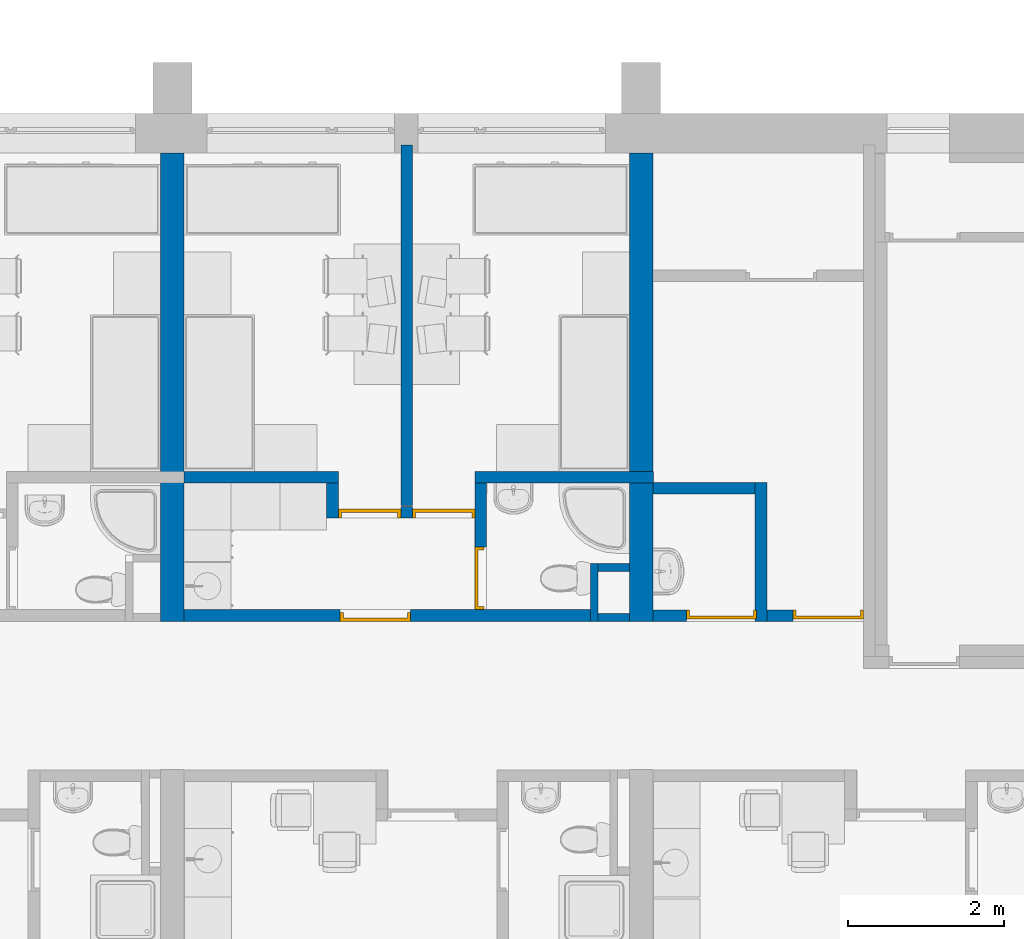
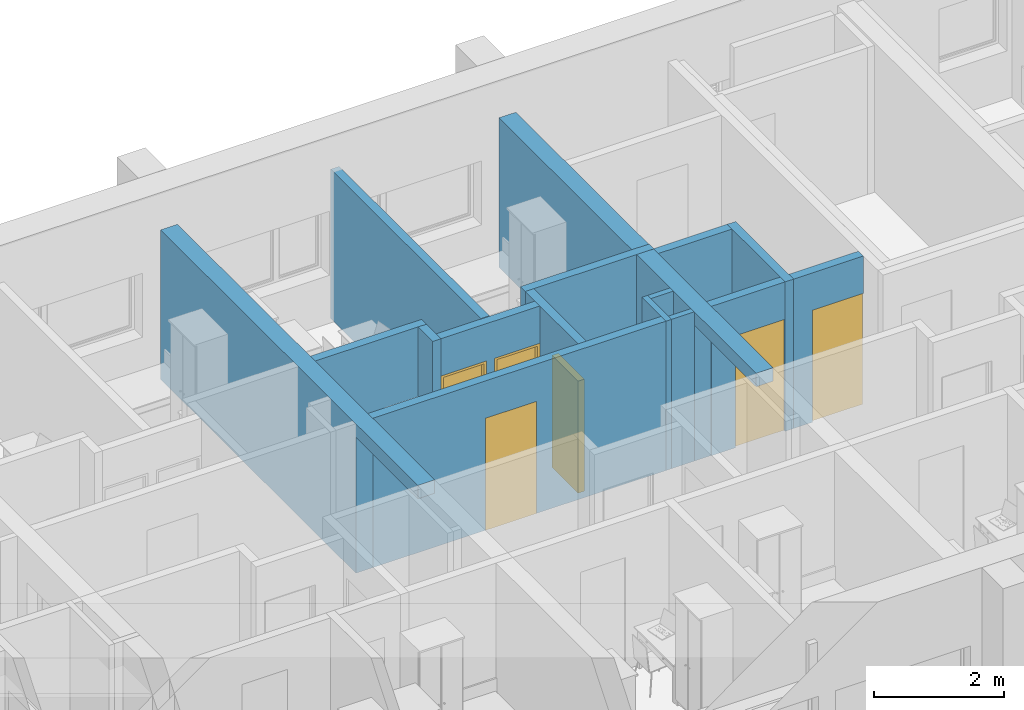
# One storey, part 9 of 152: 15 walls, 6 doors, 8 openings.
"""IFC2X3 building model written with IfcOpenShell, lengths in millimetres."""

from ifc_helpers import new_model, entity, si_unit, converted_unit, money_unit, direction, frame, origin_with_axes, place, context, subcontext, project, spatial, polyline, outline, extrude, faceted_brep, source, transform, mapped, material, material_list, layer, layer_set, layer_usage, type_object, element, fill, save


model = new_model("IFC2X3")

# Units and contexts
model_context = context("Model", 3, precision=1e-05, world=origin_with_axes(), true_north=direction((0.0, 1.0)))
body_context = subcontext(model_context, "Body", "Model", "MODEL_VIEW")
ifc_project = project(units=[si_unit("LENGTHUNIT", "METRE", prefix="MILLI"), si_unit("AREAUNIT", "SQUARE_METRE"), si_unit("VOLUMEUNIT", "CUBIC_METRE"), converted_unit("PLANEANGLEUNIT", "DEGREE", entity("IfcPlaneAngleMeasure", 0.0174532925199), si_unit("PLANEANGLEUNIT", "RADIAN"), dimensions=[0, 0, 0, 0, 0, 0, 0]), si_unit("SOLIDANGLEUNIT", "STERADIAN"), money_unit("USD"), converted_unit("TIMEUNIT", "Year", entity("IfcTimeMeasure", 31556926.0), si_unit("TIMEUNIT", "SECOND"), dimensions=[0, 0, 0, 0, 0, 0, 0]), si_unit("MASSUNIT", "GRAM"), si_unit("THERMODYNAMICTEMPERATUREUNIT", "DEGREE_CELSIUS"), si_unit("LUMINOUSINTENSITYUNIT", "LUMEN")], contexts=[model_context])

# Site, building, storey
site_placement = place(None, origin_with_axes())
site = spatial("IfcSite", under=ifc_project, at=site_placement, Name="Site", CompositionType="ELEMENT")
building_placement = place(site_placement, origin_with_axes())
building = spatial("IfcBuilding", under=site, at=building_placement, Name="Building", CompositionType="ELEMENT")
storey_placement = place(building_placement, frame((0.0, 0.0, 9500.0), z_axis=(0.0, 0.0, 1.0), x_axis=(1.0, 0.0, 0.0)))
storey = spatial("IfcBuildingStorey", under=building, at=storey_placement, Name="5KORRUS", CompositionType="ELEMENT", Elevation=9500.0)

# Walls
ifc_material_1 = material(Name="UmbKipsplaat")
ifc_layer_1 = layer(ifc_material_1, 13.0, ventilated="UNKNOWN")
ifc_layer_2 = layer(ifc_material_1, 13.0, ventilated="UNKNOWN")
ifc_material_2 = material(Name="SOOJUSTUS MINERAALVILL")
ifc_layer_3 = layer(ifc_material_2, 98.0, ventilated="UNKNOWN")
ifc_layer_4 = layer(ifc_material_1, 13.0, ventilated="UNKNOWN")
ifc_layer_5 = layer(ifc_material_1, 13.0, ventilated="UNKNOWN")
ifc_layer_set_1 = layer_set([ifc_layer_1, ifc_layer_2, ifc_layer_3, ifc_layer_4, ifc_layer_5], Name="kipssein150")
ifc_layer_usage_1 = layer_usage(ifc_layer_set_1, "AXIS2", "POSITIVE", -150.0)
wall_type_1 = type_object("IfcWallType", Name="kipssein150 150", PredefinedType="NOTDEFINED")
wall_1_placement = place(storey_placement, frame((-23990.2967033, -9359.6041088, 0.0), z_axis=(0.0, 0.0, 1.0), x_axis=(1.0, 0.0, 0.0)))
element("IfcWallStandardCase", 1, at=wall_1_placement, inside=storey, type_object=wall_type_1, material=ifc_layer_usage_1, Name="SS1", ObjectType="SS1", context=body_context, shape_type="SweptSolid", body=[
    extrude(outline(polyline([(0.0, -150.0), (1309.37146383, -150.0), (1309.37146383, 0.0), (0.0, 0.0), (0.0, -150.0)])), origin_with_axes(), (0.0, 0.0, 1.0), 2800.0),
])
ifc_layer_usage_2 = layer_usage(ifc_layer_set_1, "AXIS2", "POSITIVE", -150.0)
wall_2_placement = place(storey_placement, frame((-22680.9252395, -11141.652669, 0.0), z_axis=(0.0, 0.0, 1.0), x_axis=(0.0, 1.0, 0.0)))
element("IfcWallStandardCase", 2, at=wall_2_placement, inside=storey, type_object=wall_type_1, material=ifc_layer_usage_2, Name="SS1", ObjectType="SS1", context=body_context, shape_type="SweptSolid", body=[
    extrude(outline(polyline([(0.0, -150.0), (1782.04856022, -150.0), (1782.04856022, 0.0), (0.0, 0.0), (0.0, -150.0)])), origin_with_axes(), (0.0, 0.0, 1.0), 2800.0),
])
ifc_layer_usage_3 = layer_usage(ifc_layer_set_1, "AXIS2", "POSITIVE", -150.0)
wall_3_placement = place(storey_placement, frame((-28015.7435229, -9367.37850445, 0.0), z_axis=(0.0, 0.0, 1.0), x_axis=(0.0, -1.0, 0.0)))
element("IfcWallStandardCase", 3, at=wall_3_placement, inside=storey, type_object=wall_type_1, material=ifc_layer_usage_3, Name="SS1", ObjectType="SS1", context=body_context, shape_type="SweptSolid", body=[
    extrude(outline(polyline([(0.0, -150.0), (449.515634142, -150.0), (449.515634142, 0.0), (0.0, 0.0), (0.0, -150.0)])), origin_with_axes(), (0.0, 0.0, 1.0), 2800.0),
])
ifc_layer_usage_4 = layer_usage(ifc_layer_set_1, "AXIS2", "POSITIVE", -150.0)
wall_4_placement = place(storey_placement, frame((-28015.7435229, -9367.37850445, 0.0), z_axis=(0.0, 0.0, 1.0), x_axis=(-1.0, 0.0, 0.0)))
element("IfcWallStandardCase", 4, at=wall_4_placement, inside=storey, type_object=wall_type_1, material=ifc_layer_usage_4, Name="SS1", ObjectType="SS1", context=body_context, shape_type="SweptSolid", body=[
    extrude(outline(polyline([(0.0, -150.0), (1974.55318041, -150.0), (1974.55318041, 0.0), (0.0, 0.0), (0.0, -150.0)])), origin_with_axes(), (0.0, 0.0, 1.0), 2800.0),
])

# Wall, openings, doors
ifc_layer_usage_5 = layer_usage(ifc_layer_set_1, "AXIS2", "POSITIVE", 0.0)
wall_5_placement = place(storey_placement, frame((-23990.2967033, -11141.652669, 0.0), z_axis=(0.0, 0.0, 1.0), x_axis=(1.0, 0.0, 0.0)))
wall_5 = element("IfcWallStandardCase", 5, at=wall_5_placement, inside=storey, type_object=wall_type_1, material=ifc_layer_usage_5, Name="SS1", ObjectType="SS1", context=body_context, shape_type="SweptSolid", body=[
    extrude(outline(polyline([(0.0, 0.0), (2696.4969239, 0.0), (2696.4969239, 150.0), (0.0, 150.0), (0.0, 0.0)])), origin_with_axes(), (0.0, 0.0, 1.0), 2800.0),
])
opening_1_placement = place(wall_5_placement, frame((2246.4969239, 0.0, 0.0), z_axis=(0.0, 0.0, 1.0), x_axis=(1.0, 0.0, 0.0)))
opening_1 = element("IfcOpeningElement", 6, at=opening_1_placement, cuts=wall_5, Name="SU2-3", context=body_context, shape_type="SweptSolid", body=[
    extrude(outline(polyline([(-450.0, 0.0), (450.0, 0.0), (450.0, 2100.0), (-450.0, 2100.0), (-450.0, 0.0)])), frame((0.0, -150.0, 0.0), z_axis=(0.0, -1.0, 0.0), x_axis=(1.0, 0.0, 0.0)), (0.0, 0.0, -1.0), 450.0),
])
opening_2_placement = place(wall_5_placement, frame((880.104507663, 0.0, 0.0), z_axis=(0.0, 0.0, 1.0), x_axis=(1.0, 0.0, 0.0)))
opening_2 = element("IfcOpeningElement", 7, at=opening_2_placement, cuts=wall_5, Name="SU2-4", context=body_context, shape_type="SweptSolid", body=[
    extrude(outline(polyline([(-450.0, 0.0), (450.0, 0.0), (450.0, 2100.0), (-450.0, 2100.0), (-450.0, 0.0)])), frame((0.0, -150.0, 0.0), z_axis=(0.0, -1.0, 0.0), x_axis=(1.0, 0.0, 0.0)), (0.0, 0.0, -1.0), 450.0),
])
ifc_material_3 = material(Name="Background")
ifc_material_list = material_list([ifc_material_3])
door_style_1 = type_object("IfcDoorStyle", Name="Door 19", ConstructionType="NOTDEFINED", OperationType="SINGLE_SWING_LEFT", ParameterTakesPrecedence=False, Sizeable=False)
shared_shape_1 = source(origin_with_axes(), body_context, "Body", "Brep", [
    faceted_brep([(410.0, -75.0, 0.0), (410.0, -150.0, 0.0), (410.0, -150.0, 2060.0), (410.0, -75.0, 2060.0), (422.0, -75.0, 0.0), (422.0, -35.0, 0.0), (450.0, -35.0, 0.0), (450.0, -150.0, 0.0), (450.0, -150.0, 2060.0), (422.0, -75.0, 2060.0), (450.0, -35.0, 2060.0), (422.0, -35.0, 2060.0)], [[[0, 1, 2, 3]], [[4, 5, 6, 7, 1, 0]], [[2, 1, 7, 8]], [[9, 3, 2, 8, 10, 11]], [[9, 4, 0, 3]], [[11, 5, 4, 9]], [[11, 10, 6, 5]], [[7, 6, 10, 8]]]),
    faceted_brep([(-422.0, -75.0, 2060.0), (-422.0, -35.0, 2060.0), (-450.0, -35.0, 2060.0), (-450.0, -150.0, 2060.0), (-410.0, -150.0, 2060.0), (-410.0, -75.0, 2060.0), (-422.0, -75.0, 0.0), (-422.0, -35.0, 0.0), (-450.0, -35.0, 0.0), (-450.0, -150.0, 0.0), (-410.0, -150.0, 0.0), (-410.0, -75.0, 0.0)], [[[0, 1, 2, 3, 4, 5]], [[0, 6, 7, 1]], [[7, 8, 2, 1]], [[3, 2, 8, 9]], [[4, 3, 9, 10]], [[5, 4, 10, 11]], [[5, 11, 6, 0]], [[6, 11, 10, 9, 8, 7]]]),
    faceted_brep([(422.0, -35.0, 2072.0), (-422.0, -35.0, 2072.0), (-422.0, -35.0, 2060.0), (-450.0, -35.0, 2060.0), (-450.0, -35.0, 2100.0), (450.0, -35.0, 2100.0), (450.0, -35.0, 2060.0), (422.0, -35.0, 2060.0), (422.0, -75.0, 2072.0), (-422.0, -75.0, 2072.0), (-422.0, -75.0, 2060.0), (-410.0, -75.0, 2060.0), (-410.0, -150.0, 2060.0), (-450.0, -150.0, 2060.0), (-450.0, -150.0, 2100.0), (450.0, -150.0, 2100.0), (450.0, -150.0, 2060.0), (422.0, -75.0, 2060.0), (410.0, -150.0, 2060.0), (410.0, -75.0, 2060.0)], [[[0, 1, 2, 3, 4, 5, 6, 7]], [[0, 8, 9, 1]], [[1, 9, 10, 2]], [[10, 11, 12, 13, 3, 2]], [[14, 4, 3, 13]], [[15, 5, 4, 14]], [[16, 6, 5, 15]], [[17, 7, 6, 16, 18, 19]], [[7, 17, 8, 0]], [[10, 9, 8, 17, 19, 11]], [[19, 18, 12, 11]], [[13, 12, 18, 16, 15, 14]]]),
    faceted_brep([(-422.0, -35.0, 0.0), (422.0, -35.0, 0.0), (422.0, -75.0, 0.0), (-422.0, -75.0, 0.0), (-422.0, -35.0, 2072.0), (422.0, -35.0, 2072.0), (422.0, -75.0, 2072.0), (-422.0, -75.0, 2072.0)], [[[0, 1, 2, 3]], [[0, 4, 5, 1]], [[1, 5, 6, 2]], [[3, 2, 6, 7]], [[4, 0, 3, 7]], [[5, 4, 7, 6]]]),
])
door_1_placement = place(opening_1_placement, frame((450.0, 0.0, 0.0), z_axis=(0.0, 0.0, 1.0), x_axis=(-1.0, 0.0, 0.0)))
door_1 = element("IfcDoor", 8, at=door_1_placement, inside=storey, type_object=door_style_1, material=ifc_material_list, Name="SU2-3", ObjectType="Abiruumi uks", OverallHeight=2100.0, OverallWidth=900.0, context=body_context, shape_type="MappedRepresentation", body=[
    mapped(shared_shape_1, transform((450.0, 0.0, 0.0))),
])
fill(opening_1, door_1)
door_2_placement = place(opening_2_placement, frame((450.0, 0.0, 0.0), z_axis=(0.0, 0.0, 1.0), x_axis=(-1.0, 0.0, 0.0)))
door_2 = element("IfcDoor", 9, at=door_2_placement, inside=storey, type_object=door_style_1, material=ifc_material_list, Name="SU2-4", ObjectType="Abiruumi uks", OverallHeight=2100.0, OverallWidth=900.0, context=body_context, shape_type="MappedRepresentation", body=[
    mapped(shared_shape_1, transform((450.0, 0.0, 0.0))),
])
fill(opening_2, door_2)

# Wall, opening, door
ifc_layer_usage_6 = layer_usage(ifc_layer_set_1, "AXIS2", "POSITIVE", 0.0)
wall_6_placement = place(storey_placement, frame((-29990.2967033, -11136.6041088, 0.0), z_axis=(0.0, 0.0, 1.0), x_axis=(1.0, 0.0, 0.0)))
wall_6 = element("IfcWallStandardCase", 10, at=wall_6_placement, inside=storey, type_object=wall_type_1, material=ifc_layer_usage_6, Name="SS1", ObjectType="SS1", context=body_context, shape_type="SweptSolid", body=[
    extrude(outline(polyline([(0.0, 0.0), (5200.0, 0.0), (5200.0, 150.0), (0.0, 150.0), (0.0, 0.0)])), origin_with_axes(), (0.0, 0.0, 1.0), 2800.0),
])
opening_3_placement = place(wall_6_placement, frame((2449.55318041, 0.0, 0.0), z_axis=(0.0, 0.0, 1.0), x_axis=(1.0, 0.0, 0.0)))
opening_3 = element("IfcOpeningElement", 11, at=opening_3_placement, cuts=wall_6, Name="SU2-6", context=body_context, shape_type="SweptSolid", body=[
    extrude(outline(polyline([(-450.0, -2100.0), (450.0, -2100.0), (450.0, 0.0), (-450.0, 0.0), (-450.0, -2100.0)])), frame((0.0, 150.0, 0.0), z_axis=(0.0, 1.0, 0.0), x_axis=(1.0, 0.0, 0.0)), (0.0, 0.0, -1.0), 450.0),
])
door_style_2 = type_object("IfcDoorStyle", Name="Door 19", ConstructionType="NOTDEFINED", OperationType="SINGLE_SWING_LEFT", ParameterTakesPrecedence=False, Sizeable=False)
shared_shape_2 = source(origin_with_axes(), body_context, "Body", "Brep", [
    faceted_brep([(410.0, -40.0, 0.0), (410.0, -115.0, 0.0), (410.0, -115.0, 2060.0), (410.0, -40.0, 2060.0), (422.0, -40.0, 0.0), (422.0, 0.0, 0.0), (450.0, 0.0, 0.0), (450.0, -115.0, 0.0), (450.0, -115.0, 2060.0), (422.0, -40.0, 2060.0), (450.0, 0.0, 2060.0), (422.0, 0.0, 2060.0)], [[[0, 1, 2, 3]], [[4, 5, 6, 7, 1, 0]], [[2, 1, 7, 8]], [[9, 3, 2, 8, 10, 11]], [[9, 4, 0, 3]], [[11, 5, 4, 9]], [[11, 10, 6, 5]], [[7, 6, 10, 8]]]),
    faceted_brep([(-422.0, -40.0, 2060.0), (-422.0, 0.0, 2060.0), (-450.0, 0.0, 2060.0), (-450.0, -115.0, 2060.0), (-410.0, -115.0, 2060.0), (-410.0, -40.0, 2060.0), (-422.0, -40.0, 0.0), (-422.0, 0.0, 0.0), (-450.0, 0.0, 0.0), (-450.0, -115.0, 0.0), (-410.0, -115.0, 0.0), (-410.0, -40.0, 0.0)], [[[0, 1, 2, 3, 4, 5]], [[0, 6, 7, 1]], [[7, 8, 2, 1]], [[3, 2, 8, 9]], [[4, 3, 9, 10]], [[5, 4, 10, 11]], [[5, 11, 6, 0]], [[6, 11, 10, 9, 8, 7]]]),
    faceted_brep([(422.0, 0.0, 2072.0), (-422.0, 0.0, 2072.0), (-422.0, 0.0, 2060.0), (-450.0, 0.0, 2060.0), (-450.0, 0.0, 2100.0), (450.0, 0.0, 2100.0), (450.0, 0.0, 2060.0), (422.0, 0.0, 2060.0), (422.0, -40.0, 2072.0), (-422.0, -40.0, 2072.0), (-422.0, -40.0, 2060.0), (-410.0, -40.0, 2060.0), (-410.0, -115.0, 2060.0), (-450.0, -115.0, 2060.0), (-450.0, -115.0, 2100.0), (450.0, -115.0, 2100.0), (450.0, -115.0, 2060.0), (422.0, -40.0, 2060.0), (410.0, -115.0, 2060.0), (410.0, -40.0, 2060.0)], [[[0, 1, 2, 3, 4, 5, 6, 7]], [[0, 8, 9, 1]], [[1, 9, 10, 2]], [[10, 11, 12, 13, 3, 2]], [[14, 4, 3, 13]], [[15, 5, 4, 14]], [[16, 6, 5, 15]], [[17, 7, 6, 16, 18, 19]], [[7, 17, 8, 0]], [[10, 9, 8, 17, 19, 11]], [[19, 18, 12, 11]], [[13, 12, 18, 16, 15, 14]]]),
    faceted_brep([(-422.0, 0.0, 0.0), (422.0, 0.0, 0.0), (422.0, -40.0, 0.0), (-422.0, -40.0, 0.0), (-422.0, 0.0, 2072.0), (422.0, 0.0, 2072.0), (422.0, -40.0, 2072.0), (-422.0, -40.0, 2072.0)], [[[0, 1, 2, 3]], [[0, 4, 5, 1]], [[1, 5, 6, 2]], [[3, 2, 6, 7]], [[4, 0, 3, 7]], [[5, 4, 7, 6]]]),
])
door_3_placement = place(opening_3_placement, frame((450.0, 0.0, 0.0), z_axis=(0.0, 0.0, 1.0), x_axis=(-1.0, 0.0, 0.0)))
door_3 = element("IfcDoor", 12, at=door_3_placement, inside=storey, type_object=door_style_2, material=ifc_material_list, Name="SU2-6", ObjectType="Korteri välisuks", OverallHeight=2100.0, OverallWidth=900.0, context=body_context, shape_type="MappedRepresentation", body=[
    mapped(shared_shape_2, transform((450.0, 0.0, 0.0))),
])
fill(opening_3, door_3)

ifc_layer_usage_7 = layer_usage(ifc_layer_set_1, "AXIS2", "POSITIVE", 0.0)
wall_7_placement = place(storey_placement, frame((-26265.2967033, -9367.37850445, 0.0), z_axis=(0.0, 0.0, 1.0), x_axis=(0.0, -1.0, 0.0)))
wall_7 = element("IfcWallStandardCase", 13, at=wall_7_placement, inside=storey, type_object=wall_type_1, material=ifc_layer_usage_7, Name="SS1", ObjectType="SS1", context=body_context, shape_type="SweptSolid", body=[
    extrude(outline(polyline([(0.0, 0.0), (1619.22560435, 0.0), (1619.22560435, 150.0), (0.0, 150.0), (0.0, 0.0)])), origin_with_axes(), (0.0, 0.0, 1.0), 2800.0),
])
opening_4_placement = place(wall_7_placement, frame((1219.22560435, 0.0, 0.0), z_axis=(0.0, 0.0, 1.0), x_axis=(1.0, 0.0, 0.0)))
opening_4 = element("IfcOpeningElement", 14, at=opening_4_placement, cuts=wall_7, Name="SU3-3", context=body_context, shape_type="SweptSolid", body=[
    extrude(outline(polyline([(-400.0, -2100.0), (400.0, -2100.0), (400.0, 0.0), (-400.0, 0.0), (-400.0, -2100.0)])), frame((0.0, 150.0, 0.0), z_axis=(0.0, 1.0, 0.0), x_axis=(1.0, 0.0, 0.0)), (0.0, 0.0, -1.0), 450.0),
])
shared_shape_3 = source(origin_with_axes(), body_context, "Body", "Brep", [
    faceted_brep([(360.0, -40.0, 0.0), (360.0, -115.0, 0.0), (360.0, -115.0, 2060.0), (360.0, -40.0, 2060.0), (372.0, -40.0, 0.0), (372.0, 0.0, 0.0), (400.0, 0.0, 0.0), (400.0, -115.0, 0.0), (400.0, -115.0, 2060.0), (372.0, -40.0, 2060.0), (400.0, 0.0, 2060.0), (372.0, 0.0, 2060.0)], [[[0, 1, 2, 3]], [[4, 5, 6, 7, 1, 0]], [[2, 1, 7, 8]], [[9, 3, 2, 8, 10, 11]], [[9, 4, 0, 3]], [[11, 5, 4, 9]], [[11, 10, 6, 5]], [[7, 6, 10, 8]]]),
    faceted_brep([(-372.0, -40.0, 2060.0), (-372.0, 0.0, 2060.0), (-400.0, 0.0, 2060.0), (-400.0, -115.0, 2060.0), (-360.0, -115.0, 2060.0), (-360.0, -40.0, 2060.0), (-372.0, -40.0, 0.0), (-372.0, 0.0, 0.0), (-400.0, 0.0, 0.0), (-400.0, -115.0, 0.0), (-360.0, -115.0, 0.0), (-360.0, -40.0, 0.0)], [[[0, 1, 2, 3, 4, 5]], [[0, 6, 7, 1]], [[7, 8, 2, 1]], [[3, 2, 8, 9]], [[4, 3, 9, 10]], [[5, 4, 10, 11]], [[5, 11, 6, 0]], [[6, 11, 10, 9, 8, 7]]]),
    faceted_brep([(372.0, 0.0, 2072.0), (-372.0, 0.0, 2072.0), (-372.0, 0.0, 2060.0), (-400.0, 0.0, 2060.0), (-400.0, 0.0, 2100.0), (400.0, 0.0, 2100.0), (400.0, 0.0, 2060.0), (372.0, 0.0, 2060.0), (372.0, -40.0, 2072.0), (-372.0, -40.0, 2072.0), (-372.0, -40.0, 2060.0), (-360.0, -40.0, 2060.0), (-360.0, -115.0, 2060.0), (-400.0, -115.0, 2060.0), (-400.0, -115.0, 2100.0), (400.0, -115.0, 2100.0), (400.0, -115.0, 2060.0), (372.0, -40.0, 2060.0), (360.0, -115.0, 2060.0), (360.0, -40.0, 2060.0)], [[[0, 1, 2, 3, 4, 5, 6, 7]], [[0, 8, 9, 1]], [[1, 9, 10, 2]], [[10, 11, 12, 13, 3, 2]], [[14, 4, 3, 13]], [[15, 5, 4, 14]], [[16, 6, 5, 15]], [[17, 7, 6, 16, 18, 19]], [[7, 17, 8, 0]], [[10, 9, 8, 17, 19, 11]], [[19, 18, 12, 11]], [[13, 12, 18, 16, 15, 14]]]),
    faceted_brep([(-372.0, 0.0, 0.0), (372.0, 0.0, 0.0), (372.0, -40.0, 0.0), (-372.0, -40.0, 0.0), (-372.0, 0.0, 2072.0), (372.0, 0.0, 2072.0), (372.0, -40.0, 2072.0), (-372.0, -40.0, 2072.0)], [[[0, 1, 2, 3]], [[0, 4, 5, 1]], [[1, 5, 6, 2]], [[3, 2, 6, 7]], [[4, 0, 3, 7]], [[5, 4, 7, 6]]]),
])
door_4_placement = place(opening_4_placement, frame((400.0, 0.0, 0.0), z_axis=(0.0, 0.0, 1.0), x_axis=(-1.0, 0.0, 0.0)))
door_4 = element("IfcDoor", 15, at=door_4_placement, inside=storey, type_object=door_style_2, material=ifc_material_list, Name="SU3-3", ObjectType="WC-uks", OverallHeight=2100.0, OverallWidth=800.0, context=body_context, shape_type="MappedRepresentation", body=[
    mapped(shared_shape_3, transform((400.0, 0.0, 0.0))),
])
fill(opening_4, door_4)

# Wall, openings, doors
ifc_layer_usage_8 = layer_usage(ifc_layer_set_1, "AXIS2", "POSITIVE", 0.0)
wall_8_placement = place(storey_placement, frame((-28015.7435229, -9815.89413859, 0.0), z_axis=(0.0, 0.0, 1.0), x_axis=(1.0, 0.0, 0.0)))
wall_8 = element("IfcWallStandardCase", 16, at=wall_8_placement, inside=storey, type_object=wall_type_1, material=ifc_layer_usage_8, Name="SS1", ObjectType="SS1", context=body_context, shape_type="SweptSolid", body=[
    extrude(outline(polyline([(0.0, 0.0), (1750.44681959, 0.0), (1750.44681959, 150.0), (0.0, 150.0), (0.0, 0.0)])), origin_with_axes(), (0.0, 0.0, 1.0), 2800.0),
])
opening_5_placement = place(wall_8_placement, frame((1350.45577623, 0.0, 0.0), z_axis=(0.0, 0.0, 1.0), x_axis=(1.0, 0.0, 0.0)))
opening_5 = element("IfcOpeningElement", 17, at=opening_5_placement, cuts=wall_8, Name="SU3-5", context=body_context, shape_type="SweptSolid", body=[
    extrude(outline(polyline([(-400.0, 0.0), (400.0, 0.0), (400.0, 2100.0), (-400.0, 2100.0), (-400.0, 0.0)])), frame((0.0, 150.0, 0.0), z_axis=(0.0, 1.0, 0.0), x_axis=(-1.0, 0.0, 0.0)), (0.0, 0.0, -1.0), 450.0),
])
opening_6_placement = place(wall_8_placement, frame((400.0, 0.0, 0.0), z_axis=(0.0, 0.0, 1.0), x_axis=(1.0, 0.0, 0.0)))
opening_6 = element("IfcOpeningElement", 18, at=opening_6_placement, cuts=wall_8, Name="SU3-4", context=body_context, shape_type="SweptSolid", body=[
    extrude(outline(polyline([(-400.0, 0.0), (400.0, 0.0), (400.0, 2100.0), (-400.0, 2100.0), (-400.0, 0.0)])), frame((0.0, 150.0, 0.0), z_axis=(0.0, -1.0, 0.0), x_axis=(1.0, 0.0, 0.0)), (0.0, 0.0, 1.0), 450.0),
])
door_style_3 = type_object("IfcDoorStyle", Name="Door 19", ConstructionType="NOTDEFINED", OperationType="SINGLE_SWING_LEFT", ParameterTakesPrecedence=False, Sizeable=False)
shared_shape_4 = source(origin_with_axes(), body_context, "Body", "Brep", [
    faceted_brep([(360.0, -75.0, 0.0), (360.0, -150.0, 0.0), (360.0, -150.0, 2060.0), (360.0, -75.0, 2060.0), (372.0, -75.0, 0.0), (372.0, -35.0, 0.0), (400.0, -35.0, 0.0), (400.0, -150.0, 0.0), (400.0, -150.0, 2060.0), (372.0, -75.0, 2060.0), (400.0, -35.0, 2060.0), (372.0, -35.0, 2060.0)], [[[0, 1, 2, 3]], [[4, 5, 6, 7, 1, 0]], [[2, 1, 7, 8]], [[9, 3, 2, 8, 10, 11]], [[9, 4, 0, 3]], [[11, 5, 4, 9]], [[11, 10, 6, 5]], [[7, 6, 10, 8]]]),
    faceted_brep([(-372.0, -75.0, 2060.0), (-372.0, -35.0, 2060.0), (-400.0, -35.0, 2060.0), (-400.0, -150.0, 2060.0), (-360.0, -150.0, 2060.0), (-360.0, -75.0, 2060.0), (-372.0, -75.0, 0.0), (-372.0, -35.0, 0.0), (-400.0, -35.0, 0.0), (-400.0, -150.0, 0.0), (-360.0, -150.0, 0.0), (-360.0, -75.0, 0.0)], [[[0, 1, 2, 3, 4, 5]], [[0, 6, 7, 1]], [[7, 8, 2, 1]], [[3, 2, 8, 9]], [[4, 3, 9, 10]], [[5, 4, 10, 11]], [[5, 11, 6, 0]], [[6, 11, 10, 9, 8, 7]]]),
    faceted_brep([(372.0, -35.0, 2072.0), (-372.0, -35.0, 2072.0), (-372.0, -35.0, 2060.0), (-400.0, -35.0, 2060.0), (-400.0, -35.0, 2100.0), (400.0, -35.0, 2100.0), (400.0, -35.0, 2060.0), (372.0, -35.0, 2060.0), (372.0, -75.0, 2072.0), (-372.0, -75.0, 2072.0), (-372.0, -75.0, 2060.0), (-360.0, -75.0, 2060.0), (-360.0, -150.0, 2060.0), (-400.0, -150.0, 2060.0), (-400.0, -150.0, 2100.0), (400.0, -150.0, 2100.0), (400.0, -150.0, 2060.0), (372.0, -75.0, 2060.0), (360.0, -150.0, 2060.0), (360.0, -75.0, 2060.0)], [[[0, 1, 2, 3, 4, 5, 6, 7]], [[0, 8, 9, 1]], [[1, 9, 10, 2]], [[10, 11, 12, 13, 3, 2]], [[14, 4, 3, 13]], [[15, 5, 4, 14]], [[16, 6, 5, 15]], [[17, 7, 6, 16, 18, 19]], [[7, 17, 8, 0]], [[10, 9, 8, 17, 19, 11]], [[19, 18, 12, 11]], [[13, 12, 18, 16, 15, 14]]]),
    faceted_brep([(-372.0, -35.0, 0.0), (372.0, -35.0, 0.0), (372.0, -75.0, 0.0), (-372.0, -75.0, 0.0), (-372.0, -35.0, 2072.0), (372.0, -35.0, 2072.0), (372.0, -75.0, 2072.0), (-372.0, -75.0, 2072.0)], [[[0, 1, 2, 3]], [[0, 4, 5, 1]], [[1, 5, 6, 2]], [[3, 2, 6, 7]], [[4, 0, 3, 7]], [[5, 4, 7, 6]]]),
])
door_5_placement = place(opening_5_placement, frame((-400.0, 0.0, 0.0), z_axis=(0.0, 0.0, 1.0), x_axis=(1.0, 0.0, 0.0)))
door_5 = element("IfcDoor", 19, at=door_5_placement, inside=storey, type_object=door_style_3, material=ifc_material_list, Name="SU3-5", ObjectType="Toa uks", OverallHeight=2100.0, OverallWidth=800.0, context=body_context, shape_type="MappedRepresentation", body=[
    mapped(shared_shape_4, transform((400.0, 150.0, 0.0))),
])
fill(opening_5, door_5)
door_style_4 = type_object("IfcDoorStyle", Name="Door 19", ConstructionType="NOTDEFINED", OperationType="SINGLE_SWING_RIGHT", ParameterTakesPrecedence=False, Sizeable=False)
shared_shape_5 = source(origin_with_axes(), body_context, "Body", "Brep", [
    faceted_brep([(-360.0, -75.0, 0.0), (-360.0, -75.0, 2060.0), (-360.0, -150.0, 2060.0), (-360.0, -150.0, 0.0), (-372.0, -75.0, 2060.0), (-372.0, -75.0, 0.0), (-372.0, -35.0, 2060.0), (-400.0, -35.0, 2060.0), (-400.0, -150.0, 2060.0), (-400.0, -150.0, 0.0), (-400.0, -35.0, 0.0), (-372.0, -35.0, 0.0)], [[[0, 1, 2, 3]], [[4, 1, 0, 5]], [[4, 6, 7, 8, 2, 1]], [[2, 8, 9, 3]], [[5, 0, 3, 9, 10, 11]], [[6, 4, 5, 11]], [[6, 11, 10, 7]], [[9, 8, 7, 10]]]),
    faceted_brep([(372.0, -75.0, 2060.0), (360.0, -75.0, 2060.0), (360.0, -150.0, 2060.0), (400.0, -150.0, 2060.0), (400.0, -35.0, 2060.0), (372.0, -35.0, 2060.0), (372.0, -75.0, 0.0), (360.0, -75.0, 0.0), (360.0, -150.0, 0.0), (400.0, -150.0, 0.0), (400.0, -35.0, 0.0), (372.0, -35.0, 0.0)], [[[0, 1, 2, 3, 4, 5]], [[1, 0, 6, 7]], [[1, 7, 8, 2]], [[2, 8, 9, 3]], [[3, 9, 10, 4]], [[11, 5, 4, 10]], [[0, 5, 11, 6]], [[6, 11, 10, 9, 8, 7]]]),
    faceted_brep([(-372.0, -35.0, 2072.0), (-372.0, -35.0, 2060.0), (-400.0, -35.0, 2060.0), (-400.0, -35.0, 2100.0), (400.0, -35.0, 2100.0), (400.0, -35.0, 2060.0), (372.0, -35.0, 2060.0), (372.0, -35.0, 2072.0), (-372.0, -75.0, 2072.0), (-372.0, -75.0, 2060.0), (-360.0, -75.0, 2060.0), (-360.0, -150.0, 2060.0), (-400.0, -150.0, 2060.0), (-400.0, -150.0, 2100.0), (400.0, -150.0, 2100.0), (400.0, -150.0, 2060.0), (372.0, -75.0, 2060.0), (360.0, -150.0, 2060.0), (360.0, -75.0, 2060.0), (372.0, -75.0, 2072.0)], [[[0, 1, 2, 3, 4, 5, 6, 7]], [[1, 0, 8, 9]], [[9, 10, 11, 12, 2, 1]], [[12, 13, 3, 2]], [[13, 14, 4, 3]], [[14, 15, 5, 4]], [[16, 6, 5, 15, 17, 18]], [[7, 6, 16, 19]], [[0, 7, 19, 8]], [[16, 18, 10, 9, 8, 19]], [[10, 18, 17, 11]], [[15, 14, 13, 12, 11, 17]]]),
    faceted_brep([(372.0, -35.0, 0.0), (372.0, -75.0, 0.0), (-372.0, -75.0, 0.0), (-372.0, -35.0, 0.0), (372.0, -35.0, 2072.0), (372.0, -75.0, 2072.0), (-372.0, -75.0, 2072.0), (-372.0, -35.0, 2072.0)], [[[0, 1, 2, 3]], [[4, 5, 1, 0]], [[1, 5, 6, 2]], [[3, 2, 6, 7]], [[0, 3, 7, 4]], [[7, 6, 5, 4]]]),
])
door_6_placement = place(opening_6_placement, frame((-400.0, 0.0, 0.0), z_axis=(0.0, 0.0, 1.0), x_axis=(1.0, 0.0, 0.0)))
door_6 = element("IfcDoor", 20, at=door_6_placement, inside=storey, type_object=door_style_4, material=ifc_material_list, Name="SU3-4", ObjectType="Toa uks", OverallHeight=2100.0, OverallWidth=800.0, context=body_context, shape_type="MappedRepresentation", body=[
    mapped(shared_shape_5, transform((400.0, 150.0, 0.0))),
])
fill(opening_6, door_6)

# Walls
ifc_layer_usage_9 = layer_usage(ifc_layer_set_1, "AXIS2", "POSITIVE", 0.0)
wall_9_placement = place(storey_placement, frame((-26265.2967033, -9367.37850445, 0.0), z_axis=(0.0, 0.0, 1.0), x_axis=(1.0, 0.0, 0.0)))
element("IfcWallStandardCase", 21, at=wall_9_placement, inside=storey, type_object=wall_type_1, material=ifc_layer_usage_9, Name="SS1", ObjectType="SS1", context=body_context, shape_type="SweptSolid", body=[
    extrude(outline(polyline([(0.0, 0.0), (2281.28839536, 0.0), (2281.28839536, 150.0), (0.0, 150.0), (0.0, 0.0)])), origin_with_axes(), (0.0, 0.0, 1.0), 2800.0),
])
ifc_layer_usage_10 = layer_usage(ifc_layer_set_1, "AXIS2", "POSITIVE", 0.0)
wall_10_placement = place(storey_placement, frame((-27215.7435229, -5039.6041088, 0.0), z_axis=(0.0, 0.0, 1.0), x_axis=(0.0, -1.0, 0.0)))
element("IfcWallStandardCase", 22, at=wall_10_placement, inside=storey, type_object=wall_type_1, material=ifc_layer_usage_10, Name="SS1", ObjectType="SS1", context=body_context, shape_type="SweptSolid", body=[
    extrude(outline(polyline([(0.0, 0.0), (4617.29002979, 0.0), (4617.29002979, 150.0), (0.0, 150.0), (0.0, 0.0)])), origin_with_axes(), (0.0, 0.0, 1.0), 2800.0),
])

# Wall, opening
ifc_material_4 = material(Name="Olemasolevad seinad tellis, uus viimistlus")
ifc_layer_6 = layer(ifc_material_4, 300.0, ventilated="UNKNOWN")
ifc_layer_set_2 = layer_set([ifc_layer_6], Name="Olemasolevad seinad tellis, uus viimistlus  300")
ifc_layer_usage_11 = layer_usage(ifc_layer_set_2, "AXIS2", "POSITIVE", 0.0)
wall_type_2 = type_object("IfcWallType", Name="Olemasolevad seinad tellis, uus viimistlus  300", PredefinedType="NOTDEFINED")
wall_11_placement = place(storey_placement, frame((-23990.2967033, -13039.3705726, 0.0), z_axis=(0.0, 0.0, 1.0), x_axis=(0.0, 1.0, 0.0)))
wall_11 = element("IfcWallStandardCase", 23, at=wall_11_placement, inside=storey, type_object=wall_type_2, material=ifc_layer_usage_11, Name="KS1", ObjectType="KS1", context=body_context, shape_type="SweptSolid", body=[
    extrude(outline(polyline([(0.0, 0.0), (7899.7664638, 0.0), (7899.7664638, 300.0), (0.0, 300.0), (0.0, 0.0)])), origin_with_axes(), (0.0, 0.0, 1.0), 2800.0),
])
opening_7_placement = place(wall_11_placement, frame((942.983573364, 0.0, 0.0), z_axis=(0.0, 0.0, 1.0), x_axis=(1.0, 0.0, 0.0)))
element("IfcOpeningElement", 24, at=opening_7_placement, cuts=wall_11, Name="DOO - 001", context=body_context, shape_type="SweptSolid", body=[
    extrude(outline(polyline([(-959.783, 2550.0), (-959.783, 0.0), (959.783, 0.0), (959.783, 2550.0), (-959.783, 2550.0)])), frame((0.0, 0.0, 0.0), z_axis=(0.0, -1.0, 0.0), x_axis=(1.0, 0.0, 0.0)), (0.0, 0.0, 1.0), 300.0),
    extrude(outline(polyline([(-959.783, 0.0), (-959.783, -2550.0), (959.783, -2550.0), (959.783, 0.0), (-959.783, 0.0)])), frame((0.0, 0.0, 0.0), z_axis=(0.0, 1.0, 0.0), x_axis=(1.0, 0.0, 0.0)), (0.0, 0.0, 1.0), 300.0),
])

ifc_layer_usage_12 = layer_usage(ifc_layer_set_2, "AXIS2", "POSITIVE", 0.0)
wall_12_placement = place(storey_placement, frame((-29990.2967033, -13039.3705726, 0.0), z_axis=(0.0, 0.0, 1.0), x_axis=(0.0, 1.0, 0.0)))
wall_12 = element("IfcWallStandardCase", 25, at=wall_12_placement, inside=storey, type_object=wall_type_2, material=ifc_layer_usage_12, Name="KS1", ObjectType="KS1", context=body_context, shape_type="SweptSolid", body=[
    extrude(outline(polyline([(0.0, 0.0), (7899.7664638, 0.0), (7899.7664638, 300.0), (0.0, 300.0), (0.0, 0.0)])), origin_with_axes(), (0.0, 0.0, 1.0), 2800.0),
])
opening_8_placement = place(wall_12_placement, frame((943.048909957, 0.0, 0.0), z_axis=(0.0, 0.0, 1.0), x_axis=(1.0, 0.0, 0.0)))
element("IfcOpeningElement", 26, at=opening_8_placement, cuts=wall_12, Name="DOO - 001", context=body_context, shape_type="SweptSolid", body=[
    extrude(outline(polyline([(-959.718, 2550.0), (-959.718, 0.0), (959.718, 0.0), (959.718, 2550.0), (-959.718, 2550.0)])), frame((0.0, 0.0, 0.0), z_axis=(0.0, -1.0, 0.0), x_axis=(1.0, 0.0, 0.0)), (0.0, 0.0, 1.0), 300.0),
    extrude(outline(polyline([(-959.718, 0.0), (-959.718, -2550.0), (959.718, -2550.0), (959.718, 0.0), (-959.718, 0.0)])), frame((0.0, 0.0, 0.0), z_axis=(0.0, 1.0, 0.0), x_axis=(1.0, 0.0, 0.0)), (0.0, 0.0, 1.0), 300.0),
])

# Walls
ifc_material_5 = material(Name="krohv")
ifc_layer_7 = layer(ifc_material_5, 2.0, ventilated="UNKNOWN")
ifc_layer_8 = layer(ifc_material_5, 10.0, ventilated="UNKNOWN")
ifc_material_6 = material(Name="Kergplokk")
ifc_layer_9 = layer(ifc_material_6, 76.0, ventilated="UNKNOWN")
ifc_layer_10 = layer(ifc_material_5, 10.0, ventilated="UNKNOWN")
ifc_layer_11 = layer(ifc_material_5, 2.0, ventilated="UNKNOWN")
ifc_layer_set_3 = layer_set([ifc_layer_7, ifc_layer_8, ifc_layer_9, ifc_layer_10, ifc_layer_11], Name="Kergplokk Bauroc 100")
ifc_layer_usage_13 = layer_usage(ifc_layer_set_3, "AXIS2", "POSITIVE", 0.0)
wall_type_3 = type_object("IfcWallType", Name="Kergplokk Bauroc 100 100", PredefinedType="NOTDEFINED")
wall_13_placement = place(storey_placement, frame((-24290.2967033, -10398.1388458, 0.0), z_axis=(0.0, 0.0, 1.0), x_axis=(-1.0, 0.0, 0.0)))
element("IfcWallStandardCase", 27, at=wall_13_placement, inside=storey, type_object=wall_type_3, material=ifc_layer_usage_13, Name="SS2", ObjectType="SS2", context=body_context, shape_type="SweptSolid", body=[
    extrude(outline(polyline([(0.0, 0.0), (400.0, 0.0), (400.0, 100.0), (0.0, 100.0), (0.0, 0.0)])), origin_with_axes(), (0.0, 0.0, 1.0), 2800.0),
])
ifc_layer_usage_14 = layer_usage(ifc_layer_set_3, "AXIS2", "POSITIVE", 0.0)
wall_14_placement = place(storey_placement, frame((-24690.2967033, -11136.6041088, 0.0), z_axis=(0.0, 0.0, 1.0), x_axis=(1.0, 0.0, 0.0)))
element("IfcWallStandardCase", 28, at=wall_14_placement, inside=storey, type_object=wall_type_3, material=ifc_layer_usage_14, Name="SS2", ObjectType="SS2", context=body_context, shape_type="SweptSolid", body=[
    extrude(outline(polyline([(0.0, 0.0), (400.0, 0.0), (400.0, 100.0), (0.0, 100.0), (0.0, 0.0)])), origin_with_axes(), (0.0, 0.0, 1.0), 2800.0),
])
ifc_layer_usage_15 = layer_usage(ifc_layer_set_3, "AXIS2", "POSITIVE", 0.0)
wall_15_placement = place(storey_placement, frame((-24690.2967033, -11136.6041088, 0.0), z_axis=(0.0, 0.0, 1.0), x_axis=(0.0, 1.0, 0.0)))
element("IfcWallStandardCase", 29, at=wall_15_placement, inside=storey, type_object=wall_type_3, material=ifc_layer_usage_15, Name="SS2", ObjectType="SS2", context=body_context, shape_type="SweptSolid", body=[
    extrude(outline(polyline([(0.0, 0.0), (738.465262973, 0.0), (738.465262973, 100.0), (0.0, 100.0), (0.0, 0.0)])), origin_with_axes(), (0.0, 0.0, 1.0), 2800.0),
])

save(model, "model.ifc")
